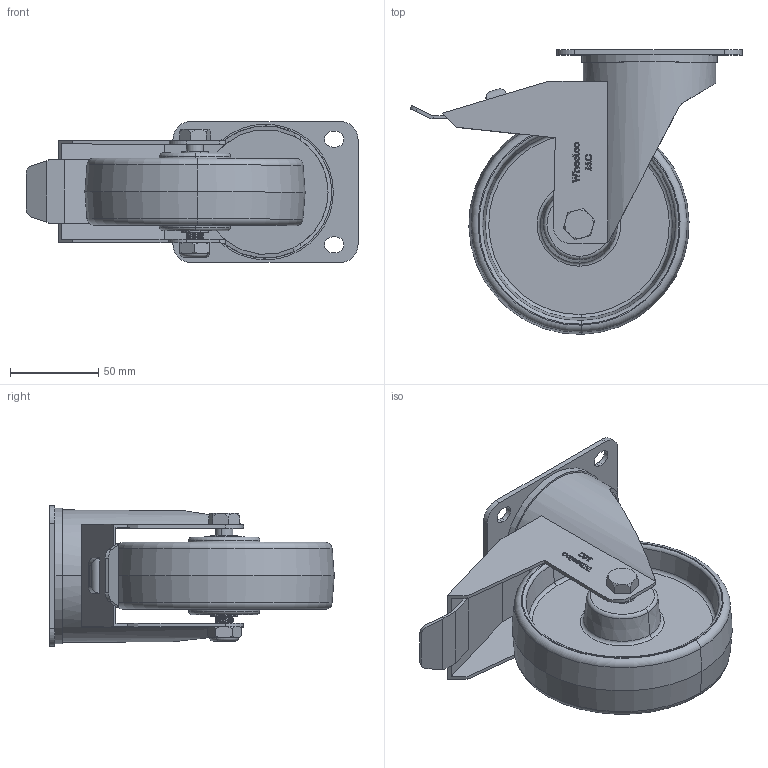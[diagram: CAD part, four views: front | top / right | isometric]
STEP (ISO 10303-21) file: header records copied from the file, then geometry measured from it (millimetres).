
FILE_DESCRIPTION (( 'STEP AP214' ), '1' );
FILE_NAME ('MCN125-P-TB Assembly.step', '2023-11-29T20:24:32', ( '' ), ( '' ), 'SwSTEP 2.0', 'SolidWorks 2022', '' );
FILE_SCHEMA (( 'AUTOMOTIVE_DESIGN' ));
Length unit declared in the file: millimetre
Products named in the file (7): M10 Nyloc SS; M10X65 STAINLESS BOLT; MC125-P-TB; MCN125; SP15-10-47; MC 105x80 Swivel Plate; MCN125-P-TB Assembly
Assembly tree (6 placements, depth 2):
  MCN125-P-TB Assembly
    MC 105x80 Swivel Plate
    M10 Nyloc SS
    M10X65 STAINLESS BOLT
    SP15-10-47
    MC125-P-TB
    MCN125
Bounding box: 188.39 x 161.48 x 80 mm (x, y, z)
Volume: 326581.2 mm3; surface area: 130849.2 mm2
Topology: 7 solids, 7 shells, 445 faces, 1189 edges, 780 vertices
Faces by surface type: plane 191, cylinder 126, bspline 69, cone 33, torus 26
Entity records: 24080 total; most frequent: CARTESIAN_POINT 12367, ORIENTED_EDGE 2378, DIRECTION 1810, EDGE_CURVE 1189, VERTEX_POINT 780, VECTOR 656, LINE 656, AXIS2_PLACEMENT_3D 577
